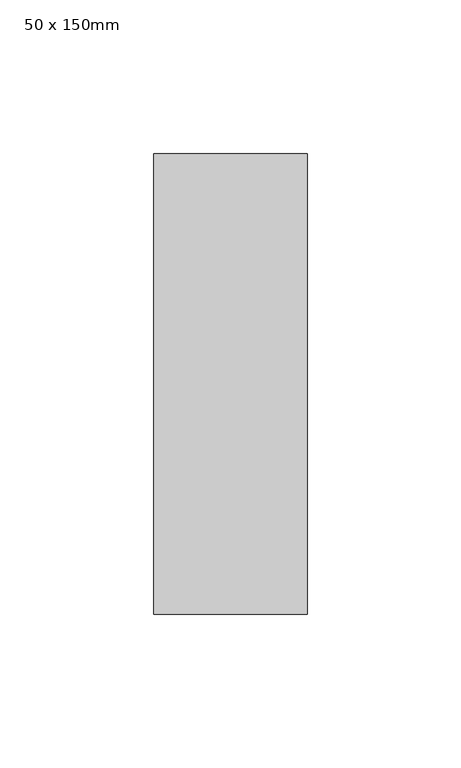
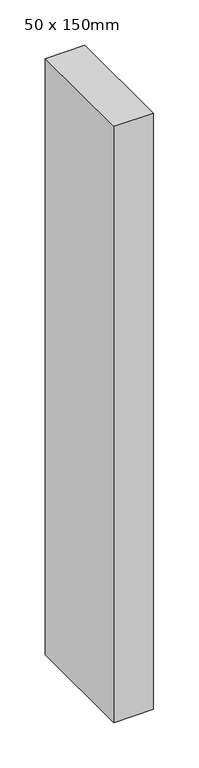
"""IFC4 building model written with IfcOpenShell, lengths in millimetres: member geometry, Прямоугольный импост : 50 x 150mm."""

import ifcopenshell
import ifcopenshell.guid

model = None  # the IFC model being written
_history = None  # IfcOwnerHistory: only IFC2X3 demands one
_inside = {}  # id of a spatial element -> (the spatial element, [elements in it])
_under = {}  # id of a project, library or spatial element -> (it, [spatial elements below it])
_declared = {}  # id of a project -> (the project, [libraries it declares])
_typed = {}  # id of a type object -> (the type object, [elements of that type])
_made_of = {}  # id of a material, layer set ... -> (it, [elements and type objects made of it])


def new_model(schema):
    """Start an empty IFC model of exactly this schema.

    Asked for "IFC4X3", IfcOpenShell would pick the latest addendum, in which some entities
    have other attributes; the version numbers below select the first issue.
    IFC2X3 requires an IfcOwnerHistory on every rooted entity: one is made here for all.
    """
    global model, _history
    if schema == "IFC4X3":
        model = ifcopenshell.file(schema_version=(4, 3, 0, 0))
    else:
        model = ifcopenshell.file(schema=schema)
    _inside.clear()
    _under.clear()
    _declared.clear()
    _typed.clear()
    _made_of.clear()
    _history = None
    if model.schema == "IFC2X3":
        org = make("IfcOrganization", Name="unknown")
        user = make(
            "IfcPersonAndOrganization",
            ThePerson=make("IfcPerson", FamilyName="unknown"),
            TheOrganization=org,
        )
        app = make(
            "IfcApplication",
            ApplicationDeveloper=org,
            Version="unknown",
            ApplicationFullName="unknown",
            ApplicationIdentifier="unknown",
        )
        _history = make(
            "IfcOwnerHistory",
            OwningUser=user,
            OwningApplication=app,
            ChangeAction="ADDED",
            CreationDate=0,
        )
    return model


def make(cls, **values):
    """One entity of the class cls with the attributes given. An attribute that is None is left unset."""
    return model.create_entity(
        cls, **{name: value for name, value in values.items() if value is not None}
    )


def rooted(cls, **values):
    """An entity with a GlobalId (a new one), such as an element, a storey or a relation."""
    return make(cls, GlobalId=ifcopenshell.guid.new(), OwnerHistory=_history, **values)


def si_unit(unit_type, name, prefix=None):
    """IfcSIUnit, for example si_unit("LENGTHUNIT", "METRE", prefix="MILLI")."""
    return make("IfcSIUnit", UnitType=unit_type, Prefix=prefix, Name=name)


def assignment(units):
    """IfcUnitAssignment: the units of a project."""
    return None if units is None else make("IfcUnitAssignment", Units=units)


def point(xyz):
    """IfcCartesianPoint."""
    return None if xyz is None else make("IfcCartesianPoint", Coordinates=xyz)


def direction(xyz):
    """IfcDirection."""
    return None if xyz is None else make("IfcDirection", DirectionRatios=xyz)


def frame(location, z_axis=None, x_axis=None):
    """IfcAxis2Placement3D, a coordinate frame: its origin and axes. An axis left out is left unset."""
    return make(
        "IfcAxis2Placement3D",
        Location=point(location),
        Axis=direction(z_axis),
        RefDirection=direction(x_axis),
    )


def origin():
    """The frame at (0, 0, 0) with its axes left unset."""
    return frame((0.0, 0.0, 0.0))


def place(relative_to, where):
    """IfcLocalPlacement: puts the frame where relative to a parent placement (None: the world)."""
    return make(
        "IfcLocalPlacement", PlacementRelTo=relative_to, RelativePlacement=where
    )


def context(
    kind, dimensions, precision=None, world=None, true_north=None, identifier=None
):
    """IfcGeometricRepresentationContext, for example the 3D "Model" context."""
    return make(
        "IfcGeometricRepresentationContext",
        ContextIdentifier=identifier,
        ContextType=kind,
        CoordinateSpaceDimension=dimensions,
        Precision=precision,
        WorldCoordinateSystem=world,
        TrueNorth=true_north,
    )


def project(units=None, contexts=None):
    """IfcProject with its units and contexts."""
    return rooted(
        "IfcProject",
        Name="project",
        RepresentationContexts=contexts,
        UnitsInContext=assignment(units),
    )


def spatial(cls, under=None, at=None, **own):
    """A site, building, storey or space (cls), placed at a placement, below another one or the project."""
    s = rooted(cls, ObjectPlacement=at, **own)
    if under is not None:
        _under.setdefault(under.id(), (under, []))[1].append(s)
    return s


def polyline(points):
    """IfcPolyline through the points."""
    return make("IfcPolyline", Points=[point(p) for p in points])


def outline(outer, holes=None, kind="AREA"):
    """IfcArbitraryClosedProfileDef: a profile drawn as a closed curve; with holes, ...WithVoids."""
    if holes is None:
        return make("IfcArbitraryClosedProfileDef", ProfileType=kind, OuterCurve=outer)
    return make(
        "IfcArbitraryProfileDefWithVoids",
        ProfileType=kind,
        OuterCurve=outer,
        InnerCurves=holes,
    )


def extrude(swept, where, along, depth):
    """IfcExtrudedAreaSolid: the profile swept, set in the frame where, extruded along a direction by depth."""
    return make(
        "IfcExtrudedAreaSolid",
        SweptArea=swept,
        Position=where,
        ExtrudedDirection=direction(along),
        Depth=depth,
    )


def shape(context_of_items, identifier, shape_type, items):
    """IfcShapeRepresentation: the items that make up one representation, for example the "Body"."""
    return make(
        "IfcShapeRepresentation",
        ContextOfItems=context_of_items,
        RepresentationIdentifier=identifier,
        RepresentationType=shape_type,
        Items=items,
    )


def source(mapping_origin, context_of_items, identifier, shape_type, items):
    """IfcRepresentationMap: a shape defined once, which mapped items show again and again."""
    return make(
        "IfcRepresentationMap",
        MappingOrigin=mapping_origin,
        MappedRepresentation=shape(context_of_items, identifier, shape_type, items),
    )


def transform(
    local_origin,
    x_axis=None,
    y_axis=None,
    z_axis=None,
    scale=None,
    scale2=None,
    scale3=None,
    uniform=True,
):
    """IfcCartesianTransformationOperator3D, or its non-uniform kind. x_axis, y_axis, z_axis: its Axis1, 2, 3."""
    if uniform:
        return make(
            "IfcCartesianTransformationOperator3D",
            Axis1=direction(x_axis),
            Axis2=direction(y_axis),
            LocalOrigin=point(local_origin),
            Scale=scale,
            Axis3=direction(z_axis),
        )
    return make(
        "IfcCartesianTransformationOperator3DnonUniform",
        Axis1=direction(x_axis),
        Axis2=direction(y_axis),
        LocalOrigin=point(local_origin),
        Scale=scale,
        Axis3=direction(z_axis),
        Scale2=scale2,
        Scale3=scale3,
    )


def mapped(mapping_source, mapping_target):
    """IfcMappedItem: shows the shape of a source again, moved by a transform."""
    return make(
        "IfcMappedItem", MappingSource=mapping_source, MappingTarget=mapping_target
    )


def made_of(thing, what):
    """Note that an element or type object is made of a material, layer set ...; save() writes the relation."""
    if what is not None:
        _made_of.setdefault(what.id(), (what, []))[1].append(thing)
    return thing


def element(
    cls,
    number,
    at=None,
    inside=None,
    cuts=None,
    type_object=None,
    material=None,
    context=None,
    identifier="Body",
    shape_type=None,
    held_by="IfcProductDefinitionShape",
    body=None,
    shapes=None,
    **own,
):
    """One element of the class cls, such as IfcWall. Its Tag is "e" and its number.

    at: its placement. inside: the storey or other place that contains it. cuts: it is an
    opening in that element (IfcRelVoidsElement). A single representation is given by context,
    identifier, shape_type and body (its items); several are given by shapes. held_by: the class
    of the entity that holds the representations. save() writes the other relations.
    """
    e = rooted(cls, Tag="e%d" % number, ObjectPlacement=at, **own)
    if body is not None:
        shapes = [shape(context, identifier, shape_type, body)]
    if shapes is not None:
        e.Representation = make(held_by, Representations=shapes)
    if inside is not None:
        _inside.setdefault(inside.id(), (inside, []))[1].append(e)
    if cuts is not None:
        rooted(
            "IfcRelVoidsElement", RelatingBuildingElement=cuts, RelatedOpeningElement=e
        )
    if type_object is not None:
        _typed.setdefault(type_object.id(), (type_object, []))[1].append(e)
    return made_of(e, material)


def aggregate(whole, parts):
    """IfcRelAggregates: a whole, such as a stair, and the parts it consists of."""
    return rooted("IfcRelAggregates", RelatingObject=whole, RelatedObjects=parts)


def save(model, path):
    """Write the relations noted so far, then the file.

    IfcRelAggregates (storeys below a building ...), IfcRelContainedInSpatialStructure (elements
    in a storey), IfcRelDefinesByType, IfcRelAssociatesMaterial and IfcRelDeclares: one each for
    every whole, place, type object, material and project.
    """
    for whole, parts in _under.values():
        aggregate(whole, parts)
    for where, things in _inside.values():
        rooted(
            "IfcRelContainedInSpatialStructure",
            RelatedElements=things,
            RelatingStructure=where,
        )
    for kind, things in _typed.values():
        rooted("IfcRelDefinesByType", RelatedObjects=things, RelatingType=kind)
    for what, things in _made_of.values():
        rooted("IfcRelAssociatesMaterial", RelatedObjects=things, RelatingMaterial=what)
    for by, libraries in _declared.values():
        rooted("IfcRelDeclares", RelatingContext=by, RelatedDefinitions=libraries)
    model.write(path)


def member_50_x_150mm_6ffebc0f(model_context):
    return source(origin(), model_context, "Body", "SweptSolid", [
        extrude(outline(polyline([(0.0, 75.0), (0.0, -75.0), (-50.0, -75.0), (-50.0, 75.0), (0.0, 75.0)])), frame((0.0, 0.0, -800.0), z_axis=(0.0, 0.0, 1.0), x_axis=(1.0, 0.0, 0.0)), (0.0, 0.0, 1.0), 800.0),
    ])


if __name__ == "__main__":
    model = new_model("IFC4")
    model_context = context("Model", 3, world=origin())
    ifc_project = project(units=[si_unit("LENGTHUNIT", "METRE", prefix="MILLI")], contexts=[model_context])
    site = spatial("IfcSite", under=ifc_project)
    building = spatial("IfcBuilding", under=site)
    placement = place(None, origin())
    member_50_x_150mm_shape = member_50_x_150mm_6ffebc0f(model_context)
    element("IfcMember", 1, ObjectType="Прямоугольный импост : 50 x 150mm", at=placement, inside=building, context=model_context, shape_type="MappedRepresentation", body=[
        mapped(member_50_x_150mm_shape, transform((0.0, 0.0, 0.0), x_axis=(1.0, 0.0, 0.0), y_axis=(0.0, 1.0, 0.0), z_axis=(0.0, 0.0, 1.0))),
    ])
    save(model, "model.ifc")
